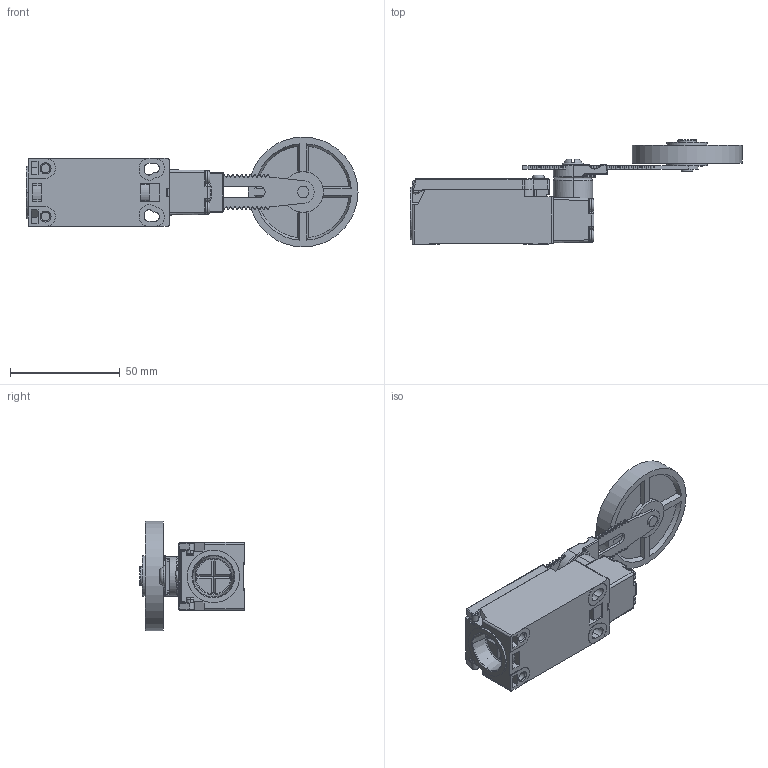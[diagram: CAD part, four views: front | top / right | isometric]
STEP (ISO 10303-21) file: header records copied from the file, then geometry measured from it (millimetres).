
FILE_DESCRIPTION(('FreeCAD Model'),'2;1');
FILE_NAME('Open CASCADE Shape Model','2026-09-09T09:39:42',(''),(''), 'Open CASCADE STEP processor 7.8','FreeCAD','Unknown');
FILE_SCHEMA(('AUTOMOTIVE_DESIGN { 1 0 10303 214 1 1 1 1 }'));
Length unit declared in the file: millimetre
Products named in the file (17): FS9609; 1; 2; 3; 4; 5; 6; 7; 8; 9; 10; 11; 12; 13; 14; 15; 16
Assembly tree (16 placements, depth 2):
  FS9609
    1
    2
    3
    4
    5
    6
    7
    8
    9
    10
    11
    12
    13
    14
    15
    16
Bounding box: 151.31 x 47.7 x 50 mm (x, y, z)
Volume: 44067.5 mm3; surface area: 40654.5 mm2
Topology: 16 solids, 16 shells, 1791 faces, 4760 edges, 3056 vertices
Faces by surface type: plane 962, cylinder 629, cone 68, torus 64, bspline 46, sphere 22
Full cylindrical faces by diameter (mm): 2.8 x7, 3 x20, 3.6 x1, 3.9 x1, 4.1 x1, 5.3 x1, 5.5 x4, 6.1 x2, 8.4 x1, 18.5 x2, 50 x1
Entity records: 86126 total; most frequent: CARTESIAN_POINT 40803, ORIENTED_EDGE 9520, DIRECTION 9362, EDGE_CURVE 4760, AXIS2_PLACEMENT_3D 3236, VERTEX_POINT 3056, LINE 2890, VECTOR 2890
